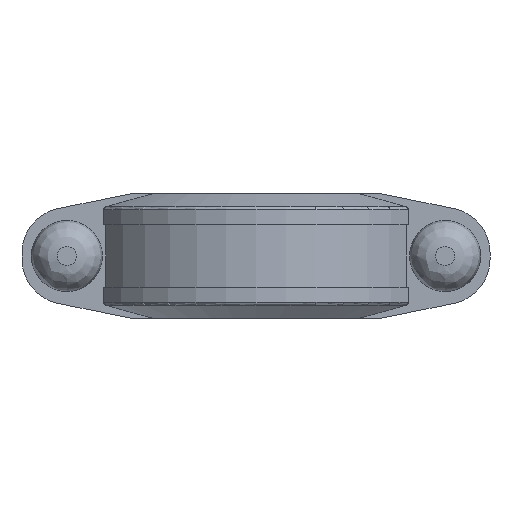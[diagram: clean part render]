
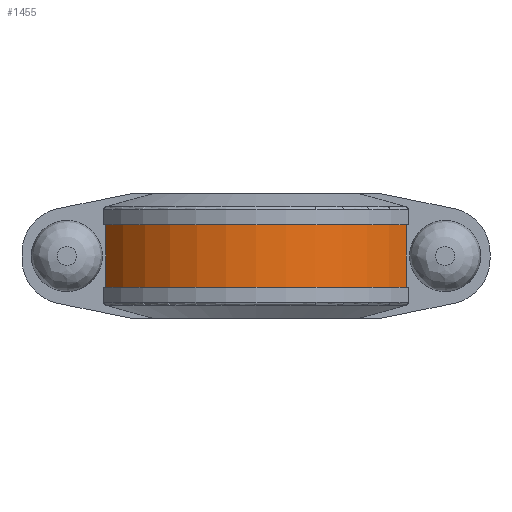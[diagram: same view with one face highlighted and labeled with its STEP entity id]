
A CAD part, front view. The second image highlights one B-rep face of the part: STEP entity #1455.
In plain terms, the highlighted cylindrical face has radius 80.264 mm (diameter 160.528 mm), a partial arc.
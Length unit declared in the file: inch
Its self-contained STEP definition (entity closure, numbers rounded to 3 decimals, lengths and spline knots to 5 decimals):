
#141=FACE_OUTER_BOUND('',#226,.T.);
#226=EDGE_LOOP('',(#1166,#1167,#1168,#1169));
#302=CIRCLE('',#1591,3.16);
#303=CIRCLE('',#1592,3.16);
#350=LINE('',#2129,#469);
#428=LINE('',#2485,#547);
#469=VECTOR('',#1699,0.3937);
#547=VECTOR('',#1897,0.3937);
#592=VERTEX_POINT('',#2126);
#593=VERTEX_POINT('',#2128);
#678=VERTEX_POINT('',#2482);
#679=VERTEX_POINT('',#2484);
#730=EDGE_CURVE('',#593,#592,#350,.T.);
#848=EDGE_CURVE('',#679,#678,#428,.T.);
#856=EDGE_CURVE('',#592,#679,#302,.T.);
#857=EDGE_CURVE('',#593,#678,#303,.T.);
#1166=ORIENTED_EDGE('',*,*,#730,.T.);
#1167=ORIENTED_EDGE('',*,*,#856,.T.);
#1168=ORIENTED_EDGE('',*,*,#848,.T.);
#1169=ORIENTED_EDGE('',*,*,#857,.F.);
#1321=CYLINDRICAL_SURFACE('',#1590,3.16);
#1455=ADVANCED_FACE('',(#141),#1321,.T.);
#1590=AXIS2_PLACEMENT_3D('',#2509,#1910,#1911);
#1591=AXIS2_PLACEMENT_3D('',#2510,#1912,#1913);
#1592=AXIS2_PLACEMENT_3D('',#2511,#1914,#1915);
#1699=DIRECTION('',(0.,0.,-1.));
#1897=DIRECTION('',(0.,0.,1.));
#1910=DIRECTION('center_axis',(0.,0.,1.));
#1911=DIRECTION('ref_axis',(-1.,0.,0.));
#1912=DIRECTION('center_axis',(0.,0.,1.));
#1913=DIRECTION('ref_axis',(-1.,0.,0.));
#1914=DIRECTION('center_axis',(0.,0.,1.));
#1915=DIRECTION('ref_axis',(-1.,0.,0.));
#2126=CARTESIAN_POINT('',(-2.71315,-1.62,-0.56));
#2128=CARTESIAN_POINT('',(-2.71315,-1.62,0.56));
#2129=CARTESIAN_POINT('',(-2.71315,-1.62,0.));
#2482=CARTESIAN_POINT('',(2.71315,-1.62,0.56));
#2484=CARTESIAN_POINT('',(2.71315,-1.62,-0.56));
#2485=CARTESIAN_POINT('',(2.71315,-1.62,0.));
#2509=CARTESIAN_POINT('Origin',(0.,0.,
0.));
#2510=CARTESIAN_POINT('Origin',(0.,0.,
-0.56));
#2511=CARTESIAN_POINT('Origin',(0.,0.,
0.56));
